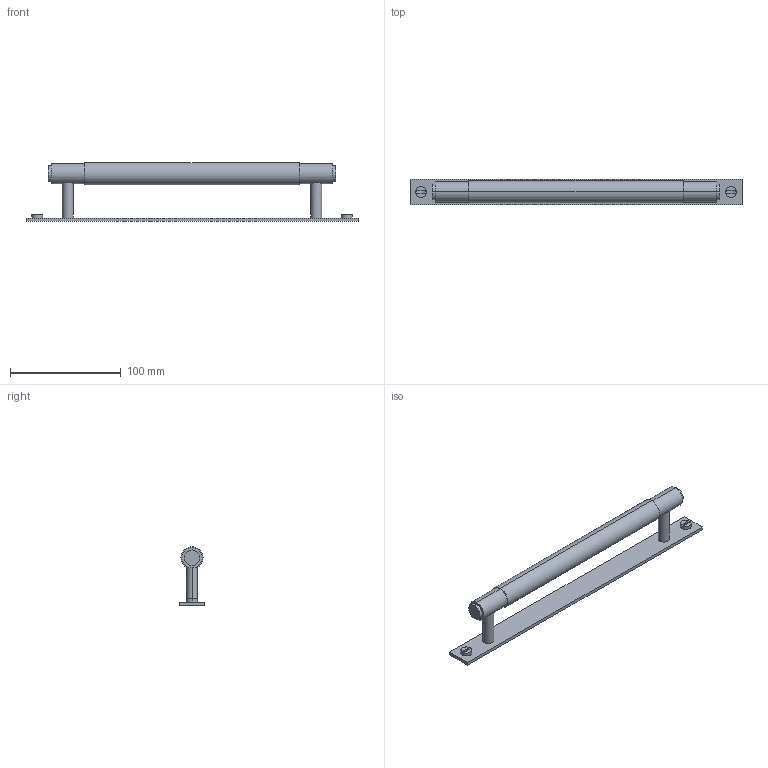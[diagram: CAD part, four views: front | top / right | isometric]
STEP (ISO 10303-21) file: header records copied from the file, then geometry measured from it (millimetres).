
FILE_DESCRIPTION (( 'STEP AP203' ), '1' );
FILE_NAME ('Pull Bar 200, 300, 400, 800 Configurations.STEP', '2016-10-12T14:00:27', ( '' ), ( '' ), 'SwSTEP 2.0', 'SolidWorks 2014', '' );
FILE_SCHEMA (( 'CONFIG_CONTROL_DESIGN' ));
Length unit declared in the file: millimetre
Products named in the file (1): Pull Bar 200, 300, 400, 800 Configurations
Bounding box: 300 x 23 x 53 mm (x, y, z)
Volume: 103855.9 mm3; surface area: 34172.8 mm2
Topology: 1 solids, 1 shells, 38 faces, 80 edges, 52 vertices
Faces by surface type: cylinder 20, plane 18
Entity records: 1249 total; most frequent: CARTESIAN_POINT 319, DIRECTION 190, ORIENTED_EDGE 160, EDGE_CURVE 80, AXIS2_PLACEMENT_3D 75, VERTEX_POINT 52, EDGE_LOOP 48, LINE 40
